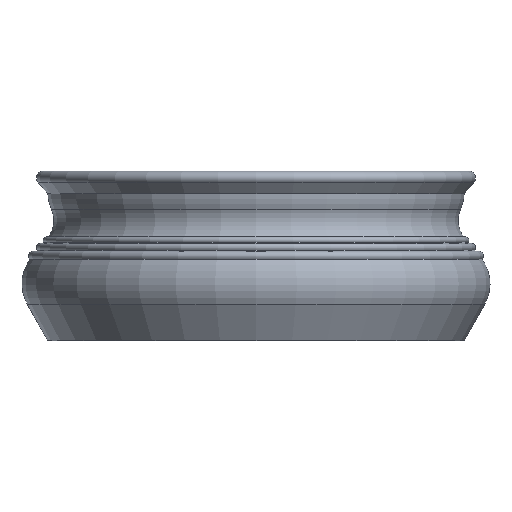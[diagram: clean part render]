
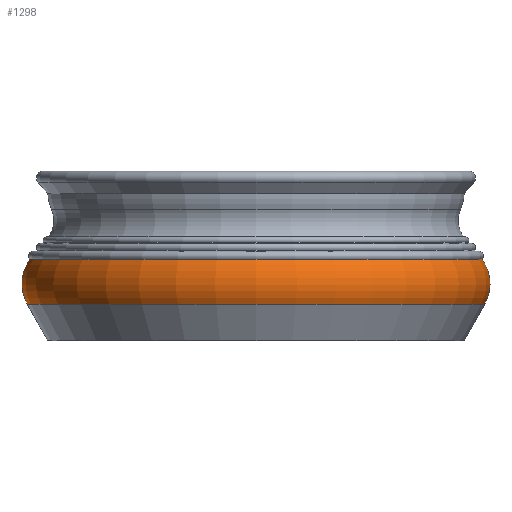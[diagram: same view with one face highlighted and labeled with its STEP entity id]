
A CAD part, front view. The second image highlights one B-rep face of the part: STEP entity #1298.
In plain terms, the highlighted toroidal (fillet/blend) face has major radius 141.81 mm and minor radius 30.55 mm.
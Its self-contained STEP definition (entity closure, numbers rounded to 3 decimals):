
#22=TOROIDAL_SURFACE('',#1475,141.81,30.55);
#164=FACE_OUTER_BOUND('',#280,.T.);
#280=EDGE_LOOP('',(#1187,#1188,#1189,#1190));
#517=CIRCLE('',#1439,168.488);
#539=CIRCLE('',#1476,166.512);
#540=CIRCLE('',#1477,30.55);
#642=VERTEX_POINT('',#2198);
#657=VERTEX_POINT('',#2257);
#805=EDGE_CURVE('',#642,#642,#517,.T.);
#834=EDGE_CURVE('',#657,#657,#539,.T.);
#835=EDGE_CURVE('',#657,#642,#540,.T.);
#1187=ORIENTED_EDGE('',*,*,#834,.F.);
#1188=ORIENTED_EDGE('',*,*,#835,.T.);
#1189=ORIENTED_EDGE('',*,*,#805,.T.);
#1190=ORIENTED_EDGE('',*,*,#835,.F.);
#1298=ADVANCED_FACE('',(#164),#22,.T.);
#1439=AXIS2_PLACEMENT_3D('',#2199,#1805,#1806);
#1475=AXIS2_PLACEMENT_3D('',#2256,#1884,#1885);
#1476=AXIS2_PLACEMENT_3D('',#2258,#1886,#1887);
#1477=AXIS2_PLACEMENT_3D('',#2259,#1888,#1889);
#1805=DIRECTION('center_axis',(0.,0.,1.));
#1806=DIRECTION('ref_axis',(1.,0.,0.));
#1884=DIRECTION('center_axis',(0.,0.,1.));
#1885=DIRECTION('ref_axis',(1.,0.,0.));
#1886=DIRECTION('center_axis',(0.,0.,1.));
#1887=DIRECTION('ref_axis',(1.,0.,0.));
#1888=DIRECTION('center_axis',(0.,-1.,0.));
#1889=DIRECTION('ref_axis',(-1.,0.,0.));
#2198=CARTESIAN_POINT('',(-168.488,0.,27.115));
#2199=CARTESIAN_POINT('Origin',(0.,0.,27.115));
#2256=CARTESIAN_POINT('Origin',(0.,0.,42.));
#2257=CARTESIAN_POINT('',(-166.512,0.,59.976));
#2258=CARTESIAN_POINT('Origin',(0.,0.,59.976));
#2259=CARTESIAN_POINT('Origin',(-141.81,0.,
42.));
